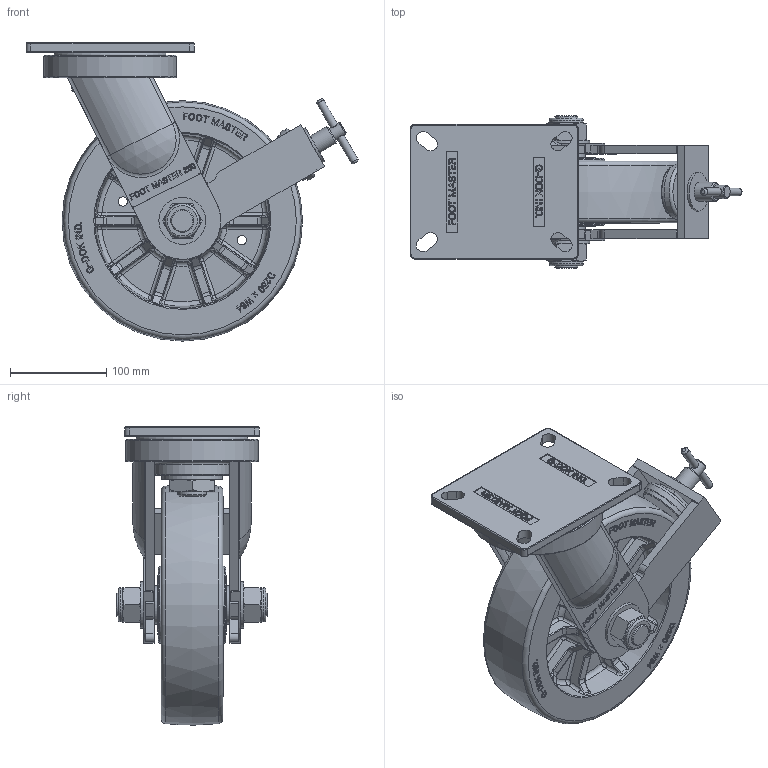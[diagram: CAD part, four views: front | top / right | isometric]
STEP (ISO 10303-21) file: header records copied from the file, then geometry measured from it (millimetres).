
FILE_DESCRIPTION(/* description */ (''),/* implementation_level */ '2;1');
FILE_NAME(/* name */ 'E:\개발도면\GXT-SERIES\GXT-250\\X2\D648D398C774C9C0C6A9B3C4BA74\X0\-20150318\STEP\GXT-250-BSF-HUD.stp',/* time_stamp */ '2015-03-19T10:23:01+09:00',/* author */ ('장용하'),/* organization */ (''),/* preprocessor_version */ 'ST-DEVELOPER v15.6',/* originating_system */ 'Autodesk Inventor 2015',/* authorisation */ '');
FILE_SCHEMA (('AUTOMOTIVE_DESIGN { 1 0 10303 214 3 1 1 }'));
Products named in the file (1): GXT-250-BSF-HUD
Bounding box: 345.13 x 158 x 309.98 mm (x, y, z)
Volume: 3423949.1 mm3; surface area: 456200.7 mm2
Topology: 1 solids, 3 shells, 2169 faces, 5562 edges, 3530 vertices
Faces by surface type: plane 903, bspline 855, cylinder 283, torus 67, cone 57, sphere 4
Full cylindrical faces by diameter (mm): 8 x2, 14 x1, 20 x1, 21 x1, 24 x2, 30 x1, 35.4 x2, 40 x3, 40.24 x2, 48.7 x2, 51.76 x2, 58 x1, 62.5 x1, 80 x1, 138 x1
Entity records: 75339 total; most frequent: CARTESIAN_POINT 27455, ORIENTED_EDGE 10962, DIRECTION 7482, EDGE_CURVE 5481, VERTEX_POINT 3509, LINE 2838, VECTOR 2838, EDGE_LOOP 2376
